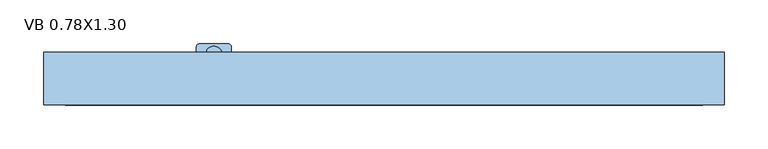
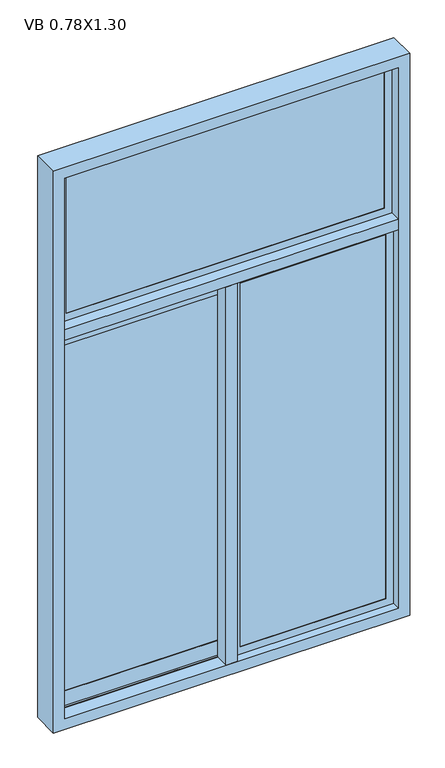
"""IFC4 building model written with IfcOpenShell, lengths in millimetres: window geometry, Ventana baja corrediza 2 cuerpos : VB 0.78X1.30."""

import ifcopenshell
import ifcopenshell.guid

model = None  # the IFC model being written
_history = None  # IfcOwnerHistory: only IFC2X3 demands one
_inside = {}  # id of a spatial element -> (the spatial element, [elements in it])
_under = {}  # id of a project, library or spatial element -> (it, [spatial elements below it])
_declared = {}  # id of a project -> (the project, [libraries it declares])
_typed = {}  # id of a type object -> (the type object, [elements of that type])
_made_of = {}  # id of a material, layer set ... -> (it, [elements and type objects made of it])


def new_model(schema):
    """Start an empty IFC model of exactly this schema.

    Asked for "IFC4X3", IfcOpenShell would pick the latest addendum, in which some entities
    have other attributes; the version numbers below select the first issue.
    IFC2X3 requires an IfcOwnerHistory on every rooted entity: one is made here for all.
    """
    global model, _history
    if schema == "IFC4X3":
        model = ifcopenshell.file(schema_version=(4, 3, 0, 0))
    else:
        model = ifcopenshell.file(schema=schema)
    _inside.clear()
    _under.clear()
    _declared.clear()
    _typed.clear()
    _made_of.clear()
    _history = None
    if model.schema == "IFC2X3":
        org = make("IfcOrganization", Name="unknown")
        user = make(
            "IfcPersonAndOrganization",
            ThePerson=make("IfcPerson", FamilyName="unknown"),
            TheOrganization=org,
        )
        app = make(
            "IfcApplication",
            ApplicationDeveloper=org,
            Version="unknown",
            ApplicationFullName="unknown",
            ApplicationIdentifier="unknown",
        )
        _history = make(
            "IfcOwnerHistory",
            OwningUser=user,
            OwningApplication=app,
            ChangeAction="ADDED",
            CreationDate=0,
        )
    return model


def make(cls, **values):
    """One entity of the class cls with the attributes given. An attribute that is None is left unset."""
    return model.create_entity(
        cls, **{name: value for name, value in values.items() if value is not None}
    )


def rooted(cls, **values):
    """An entity with a GlobalId (a new one), such as an element, a storey or a relation."""
    return make(cls, GlobalId=ifcopenshell.guid.new(), OwnerHistory=_history, **values)


def si_unit(unit_type, name, prefix=None):
    """IfcSIUnit, for example si_unit("LENGTHUNIT", "METRE", prefix="MILLI")."""
    return make("IfcSIUnit", UnitType=unit_type, Prefix=prefix, Name=name)


def assignment(units):
    """IfcUnitAssignment: the units of a project."""
    return None if units is None else make("IfcUnitAssignment", Units=units)


def point(xyz):
    """IfcCartesianPoint."""
    return None if xyz is None else make("IfcCartesianPoint", Coordinates=xyz)


def direction(xyz):
    """IfcDirection."""
    return None if xyz is None else make("IfcDirection", DirectionRatios=xyz)


def frame(location, z_axis=None, x_axis=None):
    """IfcAxis2Placement3D, a coordinate frame: its origin and axes. An axis left out is left unset."""
    return make(
        "IfcAxis2Placement3D",
        Location=point(location),
        Axis=direction(z_axis),
        RefDirection=direction(x_axis),
    )


def frame_2d(location, x_axis=None):
    """IfcAxis2Placement2D, a coordinate frame in the plane: its origin and x axis."""
    return make(
        "IfcAxis2Placement2D", Location=point(location), RefDirection=direction(x_axis)
    )


def origin():
    """The frame at (0, 0, 0) with its axes left unset."""
    return frame((0.0, 0.0, 0.0))


def place(relative_to, where):
    """IfcLocalPlacement: puts the frame where relative to a parent placement (None: the world)."""
    return make(
        "IfcLocalPlacement", PlacementRelTo=relative_to, RelativePlacement=where
    )


def context(
    kind, dimensions, precision=None, world=None, true_north=None, identifier=None
):
    """IfcGeometricRepresentationContext, for example the 3D "Model" context."""
    return make(
        "IfcGeometricRepresentationContext",
        ContextIdentifier=identifier,
        ContextType=kind,
        CoordinateSpaceDimension=dimensions,
        Precision=precision,
        WorldCoordinateSystem=world,
        TrueNorth=true_north,
    )


def project(units=None, contexts=None):
    """IfcProject with its units and contexts."""
    return rooted(
        "IfcProject",
        Name="project",
        RepresentationContexts=contexts,
        UnitsInContext=assignment(units),
    )


def spatial(cls, under=None, at=None, **own):
    """A site, building, storey or space (cls), placed at a placement, below another one or the project."""
    s = rooted(cls, ObjectPlacement=at, **own)
    if under is not None:
        _under.setdefault(under.id(), (under, []))[1].append(s)
    return s


def polyline(points):
    """IfcPolyline through the points."""
    return make("IfcPolyline", Points=[point(p) for p in points])


def circle_curve(where, radius):
    """IfcCircle in the frame where."""
    return make("IfcCircle", Position=where, Radius=radius)


def trimmed(basis, trim1, trim2, sense, master):
    """IfcTrimmedCurve: the piece of a basis curve between two trims."""
    return make(
        "IfcTrimmedCurve",
        BasisCurve=basis,
        Trim1=trim1,
        Trim2=trim2,
        SenseAgreement=sense,
        MasterRepresentation=master,
    )


def segment(curve, same_sense, transition):
    """IfcCompositeCurveSegment."""
    return make(
        "IfcCompositeCurveSegment",
        Transition=transition,
        SameSense=same_sense,
        ParentCurve=curve,
    )


def composite_curve(segments, self_intersect=None):
    """IfcCompositeCurve: segments joined end to end."""
    return make("IfcCompositeCurve", Segments=segments, SelfIntersect=self_intersect)


def outline(outer, holes=None, kind="AREA"):
    """IfcArbitraryClosedProfileDef: a profile drawn as a closed curve; with holes, ...WithVoids."""
    if holes is None:
        return make("IfcArbitraryClosedProfileDef", ProfileType=kind, OuterCurve=outer)
    return make(
        "IfcArbitraryProfileDefWithVoids",
        ProfileType=kind,
        OuterCurve=outer,
        InnerCurves=holes,
    )


def extrude(swept, where, along, depth):
    """IfcExtrudedAreaSolid: the profile swept, set in the frame where, extruded along a direction by depth."""
    return make(
        "IfcExtrudedAreaSolid",
        SweptArea=swept,
        Position=where,
        ExtrudedDirection=direction(along),
        Depth=depth,
    )


def faces_of(points, faces, orient=None, outer=None):
    """IfcFace entities. A face is a list of loops; a loop is a list of indices into points, from 0.

    orient and outer hold one flag for each loop. By default every Orientation is true, the
    first loop of a face is its IfcFaceOuterBound and the others are IfcFaceBound.
    """
    made = []
    for i, loops in enumerate(faces):
        bounds = []
        for j, loop in enumerate(loops):
            is_outer = j == 0 if outer is None else outer[i][j]
            bounds.append(
                make(
                    "IfcFaceOuterBound" if is_outer else "IfcFaceBound",
                    Bound=make("IfcPolyLoop", Polygon=[points[k] for k in loop]),
                    Orientation=True if orient is None else orient[i][j],
                )
            )
        made.append(make("IfcFace", Bounds=bounds))
    return made


def faceted_brep(points, faces, orient=None, outer=None, voids=None):
    """IfcFacetedBrep: a solid bounded by flat faces; with voids (closed shells), ...WithVoids."""
    shared = [point(p) for p in points]
    hull = make("IfcClosedShell", CfsFaces=faces_of(shared, faces, orient, outer))
    if voids is None:
        return make("IfcFacetedBrep", Outer=hull)
    return make(
        "IfcFacetedBrepWithVoids",
        Outer=hull,
        Voids=[
            make(cls, CfsFaces=faces_of(shared, fs, o, b)) for cls, fs, o, b in voids
        ],
    )


def shape(context_of_items, identifier, shape_type, items):
    """IfcShapeRepresentation: the items that make up one representation, for example the "Body"."""
    return make(
        "IfcShapeRepresentation",
        ContextOfItems=context_of_items,
        RepresentationIdentifier=identifier,
        RepresentationType=shape_type,
        Items=items,
    )


def source(mapping_origin, context_of_items, identifier, shape_type, items):
    """IfcRepresentationMap: a shape defined once, which mapped items show again and again."""
    return make(
        "IfcRepresentationMap",
        MappingOrigin=mapping_origin,
        MappedRepresentation=shape(context_of_items, identifier, shape_type, items),
    )


def transform(
    local_origin,
    x_axis=None,
    y_axis=None,
    z_axis=None,
    scale=None,
    scale2=None,
    scale3=None,
    uniform=True,
):
    """IfcCartesianTransformationOperator3D, or its non-uniform kind. x_axis, y_axis, z_axis: its Axis1, 2, 3."""
    if uniform:
        return make(
            "IfcCartesianTransformationOperator3D",
            Axis1=direction(x_axis),
            Axis2=direction(y_axis),
            LocalOrigin=point(local_origin),
            Scale=scale,
            Axis3=direction(z_axis),
        )
    return make(
        "IfcCartesianTransformationOperator3DnonUniform",
        Axis1=direction(x_axis),
        Axis2=direction(y_axis),
        LocalOrigin=point(local_origin),
        Scale=scale,
        Axis3=direction(z_axis),
        Scale2=scale2,
        Scale3=scale3,
    )


def mapped(mapping_source, mapping_target):
    """IfcMappedItem: shows the shape of a source again, moved by a transform."""
    return make(
        "IfcMappedItem", MappingSource=mapping_source, MappingTarget=mapping_target
    )


def made_of(thing, what):
    """Note that an element or type object is made of a material, layer set ...; save() writes the relation."""
    if what is not None:
        _made_of.setdefault(what.id(), (what, []))[1].append(thing)
    return thing


def element(
    cls,
    number,
    at=None,
    inside=None,
    cuts=None,
    type_object=None,
    material=None,
    context=None,
    identifier="Body",
    shape_type=None,
    held_by="IfcProductDefinitionShape",
    body=None,
    shapes=None,
    **own,
):
    """One element of the class cls, such as IfcWall. Its Tag is "e" and its number.

    at: its placement. inside: the storey or other place that contains it. cuts: it is an
    opening in that element (IfcRelVoidsElement). A single representation is given by context,
    identifier, shape_type and body (its items); several are given by shapes. held_by: the class
    of the entity that holds the representations. save() writes the other relations.
    """
    e = rooted(cls, Tag="e%d" % number, ObjectPlacement=at, **own)
    if body is not None:
        shapes = [shape(context, identifier, shape_type, body)]
    if shapes is not None:
        e.Representation = make(held_by, Representations=shapes)
    if inside is not None:
        _inside.setdefault(inside.id(), (inside, []))[1].append(e)
    if cuts is not None:
        rooted(
            "IfcRelVoidsElement", RelatingBuildingElement=cuts, RelatedOpeningElement=e
        )
    if type_object is not None:
        _typed.setdefault(type_object.id(), (type_object, []))[1].append(e)
    return made_of(e, material)


def aggregate(whole, parts):
    """IfcRelAggregates: a whole, such as a stair, and the parts it consists of."""
    return rooted("IfcRelAggregates", RelatingObject=whole, RelatedObjects=parts)


def save(model, path):
    """Write the relations noted so far, then the file.

    IfcRelAggregates (storeys below a building ...), IfcRelContainedInSpatialStructure (elements
    in a storey), IfcRelDefinesByType, IfcRelAssociatesMaterial and IfcRelDeclares: one each for
    every whole, place, type object, material and project.
    """
    for whole, parts in _under.values():
        aggregate(whole, parts)
    for where, things in _inside.values():
        rooted(
            "IfcRelContainedInSpatialStructure",
            RelatedElements=things,
            RelatingStructure=where,
        )
    for kind, things in _typed.values():
        rooted("IfcRelDefinesByType", RelatedObjects=things, RelatingType=kind)
    for what, things in _made_of.values():
        rooted("IfcRelAssociatesMaterial", RelatedObjects=things, RelatingMaterial=what)
    for by, libraries in _declared.values():
        rooted("IfcRelDeclares", RelatingContext=by, RelatedDefinitions=libraries)
    model.write(path)


def vb_0_78x1_30_94a928da(model_context):
    return source(origin(), model_context, "Body", "SolidModel", [
        extrude(outline(composite_curve([segment(trimmed(circle_curve(frame_2d((-195.0, 28.2738075)), 9.1519646), [point((-185.8480354, 28.2738075))], [point((-204.1519646, 28.2738075))], False, "CARTESIAN"), True, "CONTINUOUS"), segment(trimmed(circle_curve(frame_2d((-195.0, 28.2738075)), 9.1519646), [point((-204.1519646, 28.2738075))], [point((-185.8480354, 28.2738075))], False, "CARTESIAN"), True, "CONTINUOUS")], self_intersect=False)), frame((0.0, 0.0, 966.1518437), z_axis=(0.0, 0.0, 1.0), x_axis=(1.0, 0.0, 0.0)), (0.0, 0.0, 1.0), 3.4852564),
        extrude(outline(composite_curve([segment(trimmed(circle_curve(frame_2d((-195.0, 28.2738075)), 4.1308937), [point((-190.8691063, 28.2738075))], [point((-199.1308937, 28.2738075))], False, "CARTESIAN"), True, "CONTINUOUS"), segment(trimmed(circle_curve(frame_2d((-195.0, 28.2738075)), 4.1308937), [point((-199.1308937, 28.2738075))], [point((-190.8691063, 28.2738075))], False, "CARTESIAN"), True, "CONTINUOUS")], self_intersect=False)), frame((0.0, 0.0, 953.913316), z_axis=(0.0, 0.0, 1.0), x_axis=(1.0, 0.0, 0.0)), (0.0, 0.0, 1.0), 12.2385277),
        extrude(outline(composite_curve([segment(trimmed(circle_curve(frame_2d((-195.0, 28.2738075)), 7.026694), [point((-187.973306, 28.2738075))], [point((-202.026694, 28.2738075))], False, "CARTESIAN"), True, "CONTINUOUS"), segment(trimmed(circle_curve(frame_2d((-195.0, 28.2738075)), 7.026694), [point((-202.026694, 28.2738075))], [point((-187.973306, 28.2738075))], False, "CARTESIAN"), True, "CONTINUOUS")], self_intersect=False)), frame((0.0, 0.0, 932.1776083), z_axis=(0.0, 0.0, 1.0), x_axis=(1.0, 0.0, 0.0)), (0.0, 0.0, 1.0), 21.7357077),
        extrude(outline(composite_curve([segment(trimmed(circle_curve(frame_2d((945.1933283, -176.98428)), 1.98428), [point((945.1933283, -175.0))], [point((947.1776083, -176.98428))], False, "CARTESIAN"), True, "CONTINUOUS"), segment(polyline([(947.1776083, -176.98428), (947.1776083, -213.01572)]), True, "CONTINUOUS"), segment(trimmed(circle_curve(frame_2d((945.1933283, -213.01572)), 1.98428), [point((947.1776083, -213.01572))], [point((945.1933283, -215.0))], False, "CARTESIAN"), True, "CONTINUOUS"), segment(polyline([(945.1933283, -215.0), (932.1776083, -215.0), (932.1776083, -175.0), (945.1933283, -175.0)]), True, "CONTINUOUS")], self_intersect=False), holes=[composite_curve([segment(trimmed(circle_curve(frame_2d((940.5771467, -181.6646221)), 1.6750611), [point((940.5771467, -179.9895609))], [point((940.5771467, -183.3396832))], True, "CARTESIAN"), True, "CONTINUOUS"), segment(trimmed(circle_curve(frame_2d((940.5771467, -181.6646221)), 1.6750611), [point((940.5771467, -183.3396832))], [point((940.5771467, -179.9895609))], True, "CARTESIAN"), True, "CONTINUOUS")], self_intersect=False), composite_curve([segment(trimmed(circle_curve(frame_2d((940.5771467, -208.3353779)), 1.6750611), [point((940.5771467, -210.0104391))], [point((940.5771467, -206.6603168))], True, "CARTESIAN"), True, "CONTINUOUS"), segment(trimmed(circle_curve(frame_2d((940.5771467, -208.3353779)), 1.6750611), [point((940.5771467, -206.6603168))], [point((940.5771467, -210.0104391))], True, "CARTESIAN"), True, "CONTINUOUS")], self_intersect=False)]), frame((0.0, 15.1098039, 0.0), z_axis=(0.0, 1.0, 0.0), x_axis=(0.0, 0.0, 1.0)), (0.0, 0.0, 1.0), 4.012039),
        extrude(outline(composite_curve([segment(polyline([(-215.0, 15.1098039), (-215.0, 36.2721359)]), True, "CONTINUOUS"), segment(trimmed(circle_curve(frame_2d((-211.1623319, 36.2721359)), 3.8376681), [point((-215.0, 36.2721359))], [point((-211.1623319, 40.1098039))], False, "CARTESIAN"), True, "CONTINUOUS"), segment(polyline([(-211.1623319, 40.1098039), (-178.8376681, 40.1098039)]), True, "CONTINUOUS"), segment(trimmed(circle_curve(frame_2d((-178.8376681, 36.2721359)), 3.8376681), [point((-178.8376681, 40.1098039))], [point((-175.0, 36.2721359))], False, "CARTESIAN"), True, "CONTINUOUS"), segment(polyline([(-175.0, 36.2721359), (-175.0, 15.1098039), (-215.0, 15.1098039)]), True, "CONTINUOUS")], self_intersect=False)), frame((0.0, 0.0, 928.6104688), z_axis=(0.0, 0.0, 1.0), x_axis=(1.0, 0.0, 0.0)), (0.0, 0.0, 1.0), 3.5671395),
        extrude(outline(polyline([(-365.0, 13.9001865), (12.5, 13.9001865), (12.5, 4.4001865), (-365.0, 4.4001865), (-365.0, 13.9001865)])), frame((0.0, 0.0, 948.9759668), z_axis=(0.0, 0.0, 1.0), x_axis=(1.0, 0.0, 0.0)), (0.0, 0.0, 1.0), 827.0480665),
        extrude(outline(polyline([(361.40625, -1.2096174), (361.40625, -10.7096174), (16.09375, -10.7096174), (16.09375, -1.2096174), (361.40625, -1.2096174)])), frame((0.0, 0.0, 928.59375), z_axis=(0.0, 0.0, 1.0), x_axis=(1.0, 0.0, 0.0)), (0.0, 0.0, 1.0), 867.8125),
        extrude(outline(polyline([(361.40625, 4.75), (361.40625, -4.75), (-361.40625, -4.75), (-361.40625, 4.75), (361.40625, 4.75)])), frame((0.0, 0.0, 1828.59375), z_axis=(0.0, 0.0, 1.0), x_axis=(1.0, 0.0, 0.0)), (0.0, 0.0, 1.0), 342.8125),
        extrude(outline(composite_curve([segment(polyline([(10.2821926, 1800.0), (10.2821926, 1789.1628008)]), True, "CONTINUOUS"), segment(trimmed(circle_curve(frame_2d((9.1502142, 1789.8593269)), 1.3291064), [point((10.2821926, 1789.1628008))], [point((8.0182357, 1789.1628008))], False, "CARTESIAN"), True, "CONTINUOUS"), segment(polyline([(8.0182357, 1789.1628008), (8.0182357, 1797.9830324), (0.0, 1797.9830324), (0.0, 1800.0), (10.2821926, 1800.0)]), True, "CONTINUOUS")], self_intersect=False)), frame((-365.0, 0.0, 0.0), z_axis=(1.0, 0.0, 0.0), x_axis=(0.0, 1.0, 0.0)), (0.0, 0.0, 1.0), 713.2282521),
        extrude(outline(polyline([(12.0251865, 1779.6177832), (12.0251865, 1796.3895312), (15.1098039, 1796.3895312), (15.1098039, 1762.8460353), (13.9001865, 1762.8460353), (13.9001865, 1776.0240332), (4.4001865, 1776.0240332), (4.4001865, 1762.8460353), (3.190569, 1762.8460353), (3.190569, 1796.3895312), (6.2751865, 1796.3895312), (6.2751865, 1779.6177832), (12.0251865, 1779.6177832)])), frame((-365.0, 0.0, 0.0), z_axis=(1.0, 0.0, 0.0), x_axis=(0.0, 1.0, 0.0)), (0.0, 0.0, 1.0), 377.5),
        extrude(outline(polyline([(6.9867702, 1780.2900719), (6.9867702, 1789.8233667), (9.1501865, 1787.6599504), (11.3136028, 1789.8233667), (11.3136028, 1780.2900719), (9.1501865, 1782.4534882), (6.9867702, 1780.2900719)])), frame((-365.0, 0.0, 0.0), z_axis=(1.0, 0.0, 0.0), x_axis=(0.0, 1.0, 0.0)), (0.0, 0.0, 1.0), 377.5),
        faceted_brep([(29.2717479, -1.2096174, 1783.2282521), (29.2717479, -1.2096174, 941.7717479), (29.2717479, 0.0, 941.7717479), (29.2717479, 0.0, 1783.2282521), (16.09375, -10.7096174, 1796.40625), (16.09375, -10.7096174, 928.59375), (16.09375, -1.2096174, 928.59375), (16.09375, -1.2096174, 1796.40625), (29.2717479, -11.9192349, 1783.2282521), (29.2717479, -11.9192349, 941.7717479), (29.2717479, -10.7096174, 941.7717479), (29.2717479, -10.7096174, 1783.2282521), (12.5, 0.0, 1800.0), (12.5, 0.0, 925.0), (12.5, -11.9192349, 925.0), (12.5, -11.9192349, 1800.0), (348.2282521, -1.2096174, 941.7717479), (348.2282521, 0.0, 941.7717479), (361.40625, -10.7096174, 928.59375), (361.40625, -1.2096174, 928.59375), (348.2282521, -11.9192349, 941.7717479), (348.2282521, -10.7096174, 941.7717479), (365.0, 0.0, 925.0), (365.0, -11.9192349, 925.0), (348.2282521, -1.2096174, 1783.2282521), (348.2282521, 0.0, 1783.2282521), (361.40625, -10.7096174, 1796.40625), (361.40625, -1.2096174, 1796.40625), (348.2282521, -11.9192349, 1783.2282521), (348.2282521, -10.7096174, 1783.2282521), (365.0, 0.0, 1800.0), (365.0, -11.9192349, 1800.0)], [[[0, 1, 2, 3]], [[4, 5, 6, 7]], [[8, 9, 10, 11]], [[12, 13, 14, 15]], [[1, 16, 17, 2]], [[5, 18, 19, 6]], [[9, 20, 21, 10]], [[13, 22, 23, 14]], [[16, 24, 25, 17]], [[18, 26, 27, 19]], [[20, 28, 29, 21]], [[22, 30, 31, 23]], [[13, 12, 30, 22], [3, 2, 17, 25]], [[24, 0, 3, 25]], [[7, 6, 19, 27], [1, 0, 24, 16]], [[26, 4, 7, 27]], [[5, 4, 26, 18], [11, 10, 21, 29]], [[28, 8, 11, 29]], [[15, 14, 23, 31], [9, 8, 28, 20]], [[30, 12, 15, 31]]]),
        faceted_brep([(-365.0, 5.9596174, 2175.0), (-365.0, 5.9596174, 1825.0), (-365.0, -5.9596174, 1825.0), (-365.0, -5.9596174, 2175.0), (-348.2282521, 4.75, 2158.2282521), (-348.2282521, 4.75, 1841.7717479), (-348.2282521, 5.9596174, 1841.7717479), (-348.2282521, 5.9596174, 2158.2282521), (-361.40625, -4.75, 2171.40625), (-361.40625, -4.75, 1828.59375), (-361.40625, 4.75, 1828.59375), (-361.40625, 4.75, 2171.40625), (-348.2282521, -5.9596174, 2158.2282521), (-348.2282521, -5.9596174, 1841.7717479), (-348.2282521, -4.75, 1841.7717479), (-348.2282521, -4.75, 2158.2282521), (365.0, 5.9596174, 1825.0), (365.0, -5.9596174, 1825.0), (348.2282521, 4.75, 1841.7717479), (348.2282521, 5.9596174, 1841.7717479), (361.40625, -4.75, 1828.59375), (361.40625, 4.75, 1828.59375), (348.2282521, -5.9596174, 1841.7717479), (348.2282521, -4.75, 1841.7717479), (365.0, 5.9596174, 2175.0), (365.0, -5.9596174, 2175.0), (348.2282521, 4.75, 2158.2282521), (348.2282521, 5.9596174, 2158.2282521), (361.40625, -4.75, 2171.40625), (361.40625, 4.75, 2171.40625), (348.2282521, -5.9596174, 2158.2282521), (348.2282521, -4.75, 2158.2282521)], [[[0, 1, 2, 3]], [[4, 5, 6, 7]], [[8, 9, 10, 11]], [[12, 13, 14, 15]], [[1, 16, 17, 2]], [[5, 18, 19, 6]], [[9, 20, 21, 10]], [[13, 22, 23, 14]], [[16, 24, 25, 17]], [[18, 26, 27, 19]], [[20, 28, 29, 21]], [[22, 30, 31, 23]], [[24, 0, 3, 25]], [[1, 0, 24, 16], [7, 6, 19, 27]], [[26, 4, 7, 27]], [[11, 10, 21, 29], [5, 4, 26, 18]], [[28, 8, 11, 29]], [[9, 8, 28, 20], [15, 14, 23, 31]], [[30, 12, 15, 31]], [[3, 2, 17, 25], [13, 12, 30, 22]]]),
        extrude(outline(polyline([(12.5, 0.0), (12.5, -30.15), (-12.5, -30.15), (-12.5, 0.0), (12.5, 0.0)])), frame((0.0, 0.0, 925.0), z_axis=(0.0, 0.0, 1.0), x_axis=(1.0, 0.0, 0.0)), (0.0, 0.0, 1.0), 875.0),
        extrude(outline(polyline([(365.0, -30.15), (-365.0, -30.15), (-365.0, 30.15), (365.0, 30.15), (365.0, -30.15)])), frame((0.0, 0.0, 1800.0), z_axis=(0.0, 0.0, 1.0), x_axis=(1.0, 0.0, 0.0)), (0.0, 0.0, 1.0), 25.0),
        extrude(outline(polyline([(2200.0, -390.0), (900.0, -390.0), (900.0, 390.0), (2200.0, 390.0), (2200.0, -390.0)]), holes=[polyline([(925.0, -365.0), (2175.0, -365.0), (2175.0, 365.0), (925.0, 365.0), (925.0, -365.0)])]), frame((0.0, -30.15, 0.0), z_axis=(0.0, 1.0, 0.0), x_axis=(0.0, 0.0, 1.0)), (0.0, 0.0, 1.0), 60.3),
        extrude(outline(polyline([(3.190569, 962.1539647), (4.4001865, 962.1539647), (4.4001865, 948.9759668), (13.9001865, 948.9759668), (13.9001865, 962.1539647), (15.1098039, 962.1539647), (15.1098039, 928.6104688), (12.0251865, 928.6104688), (12.0251865, 945.3822168), (6.2751865, 945.3822168), (6.2751865, 928.6104688), (3.190569, 928.6104688), (3.190569, 962.1539647)])), frame((-365.0, 0.0, 0.0), z_axis=(1.0, 0.0, 0.0), x_axis=(0.0, 1.0, 0.0)), (0.0, 0.0, 1.0), 377.5),
        extrude(outline(polyline([(9.1501865, 942.5465118), (11.3136028, 944.7099281), (11.3136028, 935.1766333), (9.1501865, 937.3400496), (6.9867702, 935.1766333), (6.9867702, 944.7099281), (9.1501865, 942.5465118)])), frame((-365.0, 0.0, 0.0), z_axis=(1.0, 0.0, 0.0), x_axis=(0.0, 1.0, 0.0)), (0.0, 0.0, 1.0), 377.5),
        extrude(outline(composite_curve([segment(polyline([(10.2821926, 925.0), (0.0, 925.0), (0.0, 927.0169676), (8.0182357, 927.0169676), (8.0182357, 935.8371992)]), True, "CONTINUOUS"), segment(trimmed(circle_curve(frame_2d((9.1502142, 935.1406731)), 1.3291064), [point((8.0182357, 935.8371992))], [point((10.2821926, 935.8371992))], False, "CARTESIAN"), True, "CONTINUOUS"), segment(polyline([(10.2821926, 935.8371992), (10.2821926, 925.0)]), True, "CONTINUOUS")], self_intersect=False)), frame((-365.0, 0.0, 0.0), z_axis=(1.0, 0.0, 0.0), x_axis=(0.0, 1.0, 0.0)), (0.0, 0.0, 1.0), 713.2282521),
    ])


if __name__ == "__main__":
    model = new_model("IFC4")
    model_context = context("Model", 3, world=origin())
    ifc_project = project(units=[si_unit("LENGTHUNIT", "METRE", prefix="MILLI")], contexts=[model_context])
    site = spatial("IfcSite", under=ifc_project)
    building = spatial("IfcBuilding", under=site)
    placement = place(None, origin())
    vb_0_78x1_30_shape = vb_0_78x1_30_94a928da(model_context)
    element("IfcWindow", 1, ObjectType="Ventana baja corrediza 2 cuerpos : VB 0.78X1.30", at=placement, inside=building, context=model_context, shape_type="MappedRepresentation", body=[
        mapped(vb_0_78x1_30_shape, transform((0.0, 0.0, 0.0), x_axis=(1.0, 0.0, 0.0), y_axis=(0.0, 1.0, 0.0), z_axis=(0.0, 0.0, 1.0))),
    ])
    save(model, "model.ifc")
